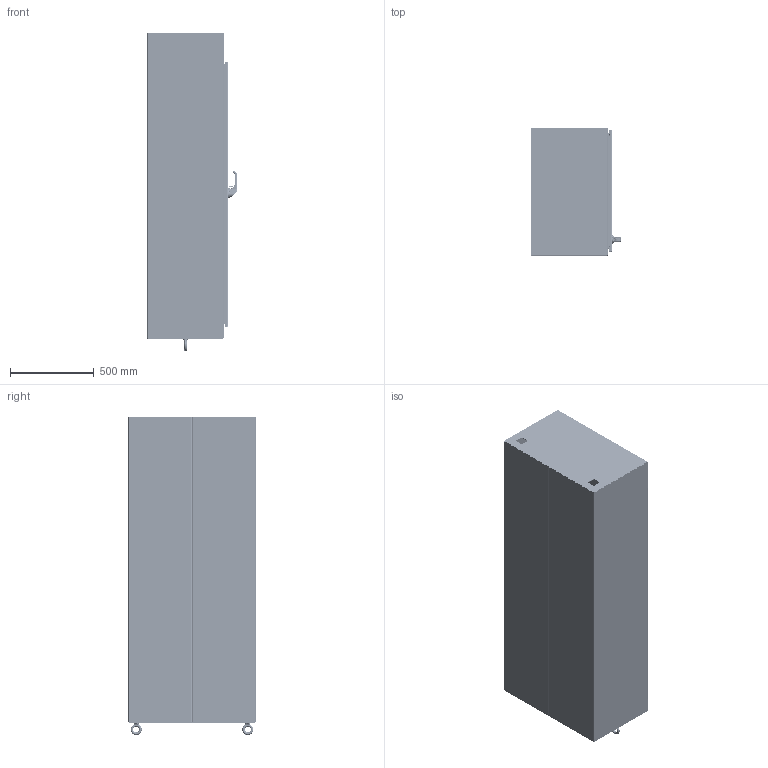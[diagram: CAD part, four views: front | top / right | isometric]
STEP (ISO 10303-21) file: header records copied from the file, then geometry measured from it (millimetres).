
FILE_DESCRIPTION((''),'2;1');
FILE_NAME('MODEL-244_ASM','2024-06-07T16:03:28',('joshi'),('SAGINAW CONTROL & ENGINEERING'),'CREO PARAMETRIC BY PTC INC, 2021284','CREO PARAMETRIC BY PTC INC, 2021284','');
FILE_SCHEMA(('AUTOMOTIVE_DESIGN { 1 0 10303 214 1 1 1 1 }'));
Length unit declared in the file: inch
Products named in the file (59): MODEL-244-L-SD; MODEL-244-TP; MODEL-244-R-SD; MODEL-244-BTM; MODEL-244-DR; 100837; 111267; 100882; 100955_SCREW_MTG; 100955_PADLOCK_CATCH; 100955_SCREW_LARGE; 100955_INSERT_SHAFT; 100955_INSERT_PKH; 100955_GASKET; 100955_O-RING; 100955_BASE; 100955_SPRING; 100955_HANDLE; 100955_CAM_SHAFT; 100955_HANDLE_ASM; 100955_CAM_ADAPTER; 100955_EARTH_NUT; 100955_FLANGE_NUT; 100955_CAM_NUT; 100955_KEY_INSERT; 100955_SPRING_CAM; 100955_TORSION_SPRING; 100955_SCREW_INSERT; 100955_ASM; 102237; 100030; 102237_ASM; MODEL-244-ROD-UPR; 128146; 128145; 128144; 102482; MODEL-244-ROD-UPR_ASM; 128143; 112504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
Assembly tree (102 placements, depth 5):
  MODEL-244_ASM
    MODEL-244-L-SD
    MODEL-244-TP
    MODEL-244-R-SD
    MODEL-244-BTM
    MODEL-244-DOOR-ASSY_ASM
      MODEL-244-DR
      100837  x5
      111267
      100882  x10
      100955_ASM
        100955_SCREW_MTG
        100955_PADLOCK_CATCH
        100955_SCREW_LARGE  x2
        100955_INSERT_SHAFT
        100955_INSERT_PKH
        100955_GASKET
        100955_O-RING
        100955_BASE
        100955_SPRING
        100955_HANDLE_ASM
          100955_HANDLE
          100955_CAM_SHAFT
        100955_CAM_ADAPTER
        100955_EARTH_NUT
        100955_FLANGE_NUT
        100955_CAM_NUT
        100955_KEY_INSERT
        100955_SPRING_CAM
        100955_TORSION_SPRING
        100955_SCREW_INSERT
      102237_ASM
        102237
        100030  x2
      MODEL-244-ROD-UPR_ASM
        MODEL-244-ROD-UPR
        128146
        128145
        128144
        102482  x2
      128143  x2
      112504  x2
      MODEL-244-ROD-LWR_ASM
        MODEL-244-ROD-LWR
        128146
        128145
        128144
        102482  x2
      MODEL-244-PR-GSKT
      128257_ASM  x3
        128257
      126393  x3
      102483  x3
      101369_ASM  x3
        101369
        101369-STUD
      101221  x3
    100837  x3
    MODEL-244-B42  x6
    130513  x2
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Bounding box: 535.45 x 762 x 1903.6 mm (x, y, z)
Volume: 16303410.1 mm3; surface area: 12121551.3 mm2
Topology: 106 solids, 106 shells, 11284 faces, 28895 edges, 17876 vertices
Faces by surface type: plane 3932, cylinder 3066, bspline 2578, torus 791, cone 625, sphere 262, extrusion 30
Entity records: 367963 total; most frequent: CARTESIAN_POINT 149727, ORIENTED_EDGE 33424, DIRECTION 30119, PRESENTATION_STYLE_ASSIGNMENT 17649, STYLED_ITEM 17644, CURVE_STYLE 16712, EDGE_CURVE 16712, AXIS2_PLACEMENT_3D 11294
